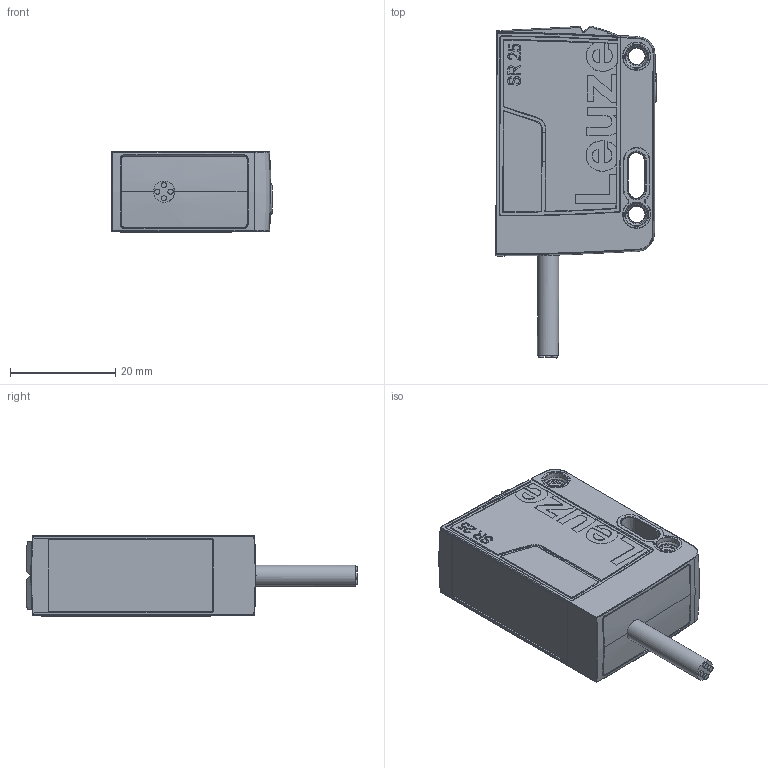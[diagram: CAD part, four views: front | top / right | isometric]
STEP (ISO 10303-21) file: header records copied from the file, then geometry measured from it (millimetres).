
FILE_DESCRIPTION(/* description */ (''),/* implementation_level */ '2;1');
FILE_NAME(/* name */ '3DCAD_DRT25C_Kabel.stp',/* time_stamp */ '2020-06-16T13:56:30+02:00',/* author */ ('CC2'),/* organization */ ('Leuze electronic'),/* preprocessor_version */ 'ST-DEVELOPER v16',/* originating_system */ 'SIEMENS PLM Software NX 11.0',/* authorisation */ '');
FILE_SCHEMA (('AUTOMOTIVE_DESIGN { 1 0 10303 214 3 1 1 1 }'));
Length unit declared in the file: millimetre
Products named in the file (1): 19-103139_00_1-3DCAD_DRT25C_Kabel
Bounding box: 30.43 x 63.01 x 15.35 mm (x, y, z)
Volume: 18488.5 mm3; surface area: 5910.9 mm2
Topology: 1 solids, 1 shells, 530 faces, 1378 edges, 852 vertices
Faces by surface type: plane 167, cylinder 103, bspline 95, extrusion 71, torus 40, sphere 29, cone 23, revolution 2
Full cylindrical faces by diameter (mm): 1 x4, 4 x1, 8.6 x1
Entity records: 33131 total; most frequent: CARTESIAN_POINT 20720, ORIENTED_EDGE 2610, DIRECTION 1957, EDGE_CURVE 1305, VERTEX_POINT 832, AXIS2_PLACEMENT_3D 693, EDGE_LOOP 591, VECTOR 569
